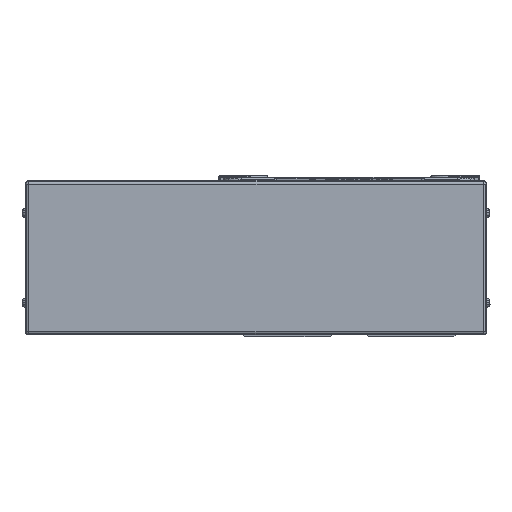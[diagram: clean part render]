
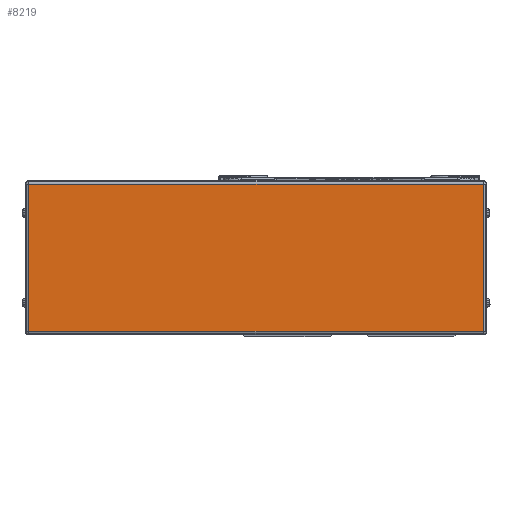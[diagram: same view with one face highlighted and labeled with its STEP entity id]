
A CAD part, left-side view. The second image highlights one B-rep face of the part: STEP entity #8219.
In plain terms, the highlighted planar face has unit normal (-1, 0, 0).
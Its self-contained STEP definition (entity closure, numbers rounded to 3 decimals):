
#8219=ADVANCED_FACE('',(#16682),#16683,.F.);
#16682=FACE_OUTER_BOUND('',#26499,.T.);
#16683=PLANE('',#26500);
#26499=EDGE_LOOP('',(#49968,#49969,#49970,#49971));
#26500=AXIS2_PLACEMENT_3D('',#49972,#49973,#49974);
#49968=ORIENTED_EDGE('',*,*,#60240,.T.);
#49969=ORIENTED_EDGE('',*,*,#57679,.T.);
#49970=ORIENTED_EDGE('',*,*,#54978,.T.);
#49971=ORIENTED_EDGE('',*,*,#52076,.T.);
#49972=CARTESIAN_POINT('',(-45.,180.5,0.));
#49973=DIRECTION('',(1.0,0.,0.));
#49974=DIRECTION('',(0.,0.,1.0));
#52076=EDGE_CURVE('',#61830,#61828,#61831,.T.);
#54978=EDGE_CURVE('',#63190,#61830,#66790,.T.);
#57679=EDGE_CURVE('',#65472,#63190,#70846,.T.);
#60240=EDGE_CURVE('',#61828,#65472,#74106,.T.);
#61828=VERTEX_POINT('',#75957);
#61830=VERTEX_POINT('',#75959);
#61831=LINE('',#75960,#75961);
#63190=VERTEX_POINT('',#77764);
#65472=VERTEX_POINT('',#80799);
#66790=LINE('',#82626,#82627);
#70846=LINE('',#88435,#88436);
#74106=LINE('',#93471,#93472);
#75957=CARTESIAN_POINT('',(-45.,178.5,41.));
#75959=CARTESIAN_POINT('',(-45.,-74.5,41.));
#75960=CARTESIAN_POINT('',(-45.,180.5,41.));
#75961=VECTOR('',#95389,10.0);
#77764=CARTESIAN_POINT('',(-45.,-74.5,-41.));
#80799=CARTESIAN_POINT('',(-45.,178.5,-41.));
#82626=CARTESIAN_POINT('',(-45.,-74.5,0.));
#82627=VECTOR('',#99534,10.0);
#88435=CARTESIAN_POINT('',(-45.,180.5,-41.));
#88436=VECTOR('',#103059,10.0);
#93471=CARTESIAN_POINT('',(-45.,178.5,0.));
#93472=VECTOR('',#105977,10.0);
#95389=DIRECTION('',(0.,1.0,0.));
#99534=DIRECTION('',(0.,0.,1.0));
#103059=DIRECTION('',(0.,-1.0,0.));
#105977=DIRECTION('',(0.,0.,-1.0));
